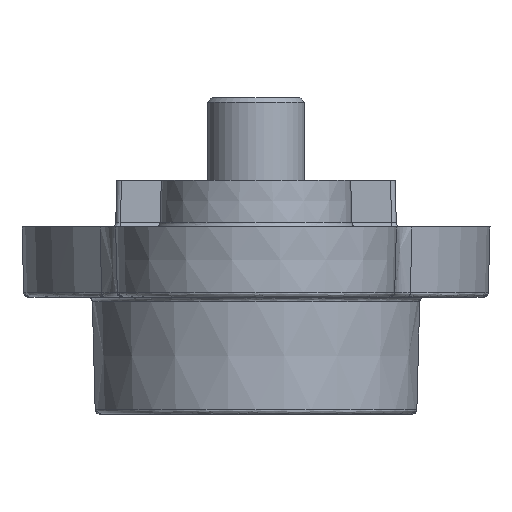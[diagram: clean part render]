
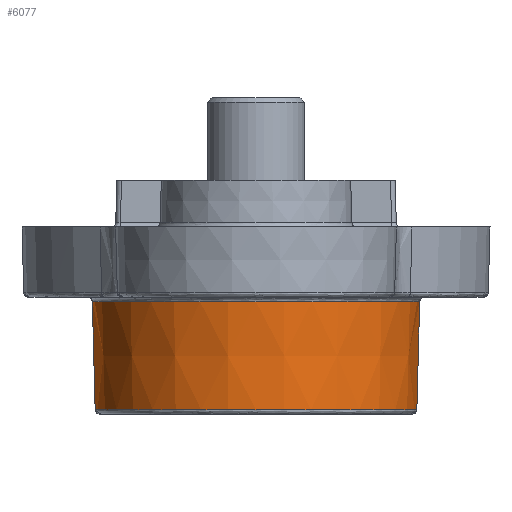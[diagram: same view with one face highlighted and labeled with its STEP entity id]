
A CAD part, left-side view. The second image highlights one B-rep face of the part: STEP entity #6077.
In plain terms, the highlighted conical face has half-angle 1.5 degrees and reference radius 3.497 mm.
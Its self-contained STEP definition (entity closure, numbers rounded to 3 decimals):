
#349 = ORIENTED_EDGE ( 'NONE', *, *, #5841, .T. ) ;
#474 = ORIENTED_EDGE ( 'NONE', *, *, #1097, .T. ) ;
#486 = EDGE_CURVE ( 'NONE', #7256, #6084, #4172, .T. ) ;
#798 = AXIS2_PLACEMENT_3D ( 'NONE', #5619, #1977, #1371 ) ;
#887 = CARTESIAN_POINT ( 'NONE',  ( 0., -499000., -13070.314 ) ) ;
#1097 = EDGE_CURVE ( 'NONE', #6266, #6084, #6900, .T. ) ;
#1258 = DIRECTION ( 'NONE',  ( 0., 0., -1. ) ) ;
#1371 = DIRECTION ( 'NONE',  ( 0., 0., -1. ) ) ;
#1738 = CARTESIAN_POINT ( 'NONE',  ( 0., 1.597, -3.497 ) ) ;
#1977 = DIRECTION ( 'NONE',  ( 0., 1., 0. ) ) ;
#2433 = CIRCLE ( 'NONE', #4015, 3.437 ) ;
#2592 = CARTESIAN_POINT ( 'NONE',  ( 0., 3.903, -3.437 ) ) ;
#2836 = VERTEX_POINT ( 'NONE', #2592 ) ;
#2903 = AXIS2_PLACEMENT_3D ( 'NONE', #5355, #4269, #1258 ) ;
#3103 = CARTESIAN_POINT ( 'NONE',  ( 0., 1.597, 3.497 ) ) ;
#3165 = ORIENTED_EDGE ( 'NONE', *, *, #5765, .T. ) ;
#4005 = EDGE_LOOP ( 'NONE', ( #3165, #474, #5880, #349 ) ) ;
#4015 = AXIS2_PLACEMENT_3D ( 'NONE', #4508, #7270, #4433 ) ;
#4172 = LINE ( 'NONE', #6614, #4247 ) ;
#4247 = VECTOR ( 'NONE', #5488, 1000. ) ;
#4269 = DIRECTION ( 'NONE',  ( 0., -1., 0. ) ) ;
#4433 = DIRECTION ( 'NONE',  ( 0., 0., -1. ) ) ;
#4508 = CARTESIAN_POINT ( 'NONE',  ( 0., 3.903, 0. ) ) ;
#4966 = LINE ( 'NONE', #887, #5109 ) ;
#5109 = VECTOR ( 'NONE', #7148, 1000. ) ;
#5355 = CARTESIAN_POINT ( 'NONE',  ( 0., 1.597, 0. ) ) ;
#5488 = DIRECTION ( 'NONE',  ( 0., -1., 0.026 ) ) ;
#5619 = CARTESIAN_POINT ( 'NONE',  ( 0., 1.597, 0. ) ) ;
#5765 = EDGE_CURVE ( 'NONE', #2836, #6266, #4966, .T. ) ;
#5841 = EDGE_CURVE ( 'NONE', #7256, #2836, #2433, .T. ) ;
#5880 = ORIENTED_EDGE ( 'NONE', *, *, #486, .F. ) ;
#6042 = FACE_OUTER_BOUND ( 'NONE', #4005, .T. ) ;
#6077 = ADVANCED_FACE ( 'NONE', ( #6042 ), #6193, .T. ) ;
#6084 = VERTEX_POINT ( 'NONE', #3103 ) ;
#6193 = CONICAL_SURFACE ( 'NONE', #2903, 3.497, 0.026 ) ;
#6213 = CARTESIAN_POINT ( 'NONE',  ( 0., 3.903, 3.437 ) ) ;
#6266 = VERTEX_POINT ( 'NONE', #1738 ) ;
#6614 = CARTESIAN_POINT ( 'NONE',  ( 0., 1.5, 3.5 ) ) ;
#6900 = CIRCLE ( 'NONE', #798, 3.497 ) ;
#7148 = DIRECTION ( 'NONE',  ( 0., -1., -0.026 ) ) ;
#7256 = VERTEX_POINT ( 'NONE', #6213 ) ;
#7270 = DIRECTION ( 'NONE',  ( 0., -1., 0. ) ) ;
